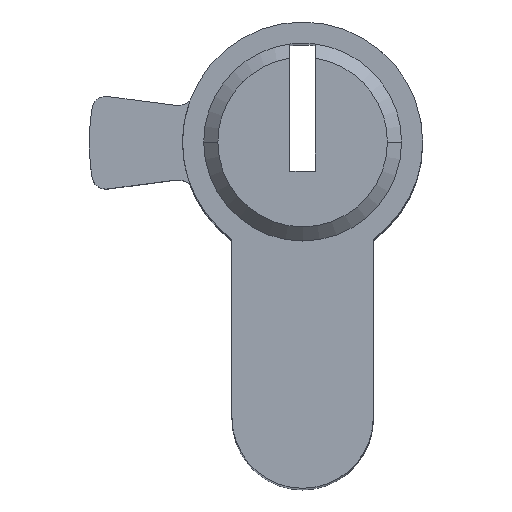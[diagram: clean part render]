
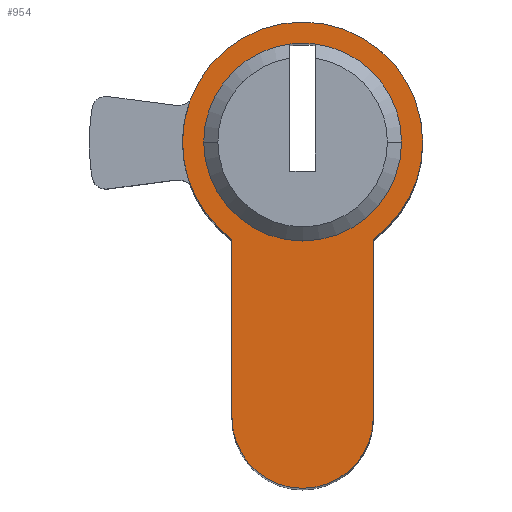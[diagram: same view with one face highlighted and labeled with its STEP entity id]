
A CAD part, top view. The second image highlights one B-rep face of the part: STEP entity #954.
In plain terms, the highlighted planar face has unit normal (0, 0, 1).
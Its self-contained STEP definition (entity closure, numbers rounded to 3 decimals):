
#4 = VERTEX_POINT ( 'NONE', #873 ) ;
#10 = AXIS2_PLACEMENT_3D ( 'NONE', #565, #1256, #710 ) ;
#30 = DIRECTION ( 'NONE',  ( 0., 0., 1. ) ) ;
#42 = FACE_OUTER_BOUND ( 'NONE', #805, .T. ) ;
#83 = VERTEX_POINT ( 'NONE', #1197 ) ;
#104 = CIRCLE ( 'NONE', #1184, 7. ) ;
#127 = AXIS2_PLACEMENT_3D ( 'NONE', #158, #1406, #997 ) ;
#158 = CARTESIAN_POINT ( 'NONE',  ( 0., -19.5, 30. ) ) ;
#200 = CARTESIAN_POINT ( 'NONE',  ( -0.9, 6.942, 30. ) ) ;
#219 = CARTESIAN_POINT ( 'NONE',  ( 0., 0., 30. ) ) ;
#228 = CARTESIAN_POINT ( 'NONE',  ( -8.5, 0., 30. ) ) ;
#234 = EDGE_CURVE ( 'NONE', #1361, #606, #1520, .T. ) ;
#268 = EDGE_CURVE ( 'NONE', #1162, #4, #1253, .T. ) ;
#296 = CIRCLE ( 'NONE', #1179, 8.5 ) ;
#317 = EDGE_CURVE ( 'NONE', #1241, #1488, #1731, .T. ) ;
#324 = DIRECTION ( 'NONE',  ( 1., 0., 0. ) ) ;
#341 = CARTESIAN_POINT ( 'NONE',  ( 0., 0., 30. ) ) ;
#347 = EDGE_CURVE ( 'NONE', #1251, #83, #1376, .T. ) ;
#379 = CARTESIAN_POINT ( 'NONE',  ( 0., 0., 30. ) ) ;
#439 = VECTOR ( 'NONE', #680, 1000. ) ;
#449 = EDGE_CURVE ( 'NONE', #1488, #1361, #296, .T. ) ;
#518 = EDGE_LOOP ( 'NONE', ( #1191, #1095, #625, #814 ) ) ;
#558 = EDGE_CURVE ( 'NONE', #697, #1251, #1150, .T. ) ;
#565 = CARTESIAN_POINT ( 'NONE',  ( 0., 0., 30. ) ) ;
#589 = CARTESIAN_POINT ( 'NONE',  ( 8.5, 0., 30. ) ) ;
#606 = VERTEX_POINT ( 'NONE', #228 ) ;
#625 = ORIENTED_EDGE ( 'NONE', *, *, #558, .F. ) ;
#668 = DIRECTION ( 'NONE',  ( 1., 0., 0. ) ) ;
#674 = VECTOR ( 'NONE', #1052, 1000. ) ;
#680 = DIRECTION ( 'NONE',  ( 0., -1., 0. ) ) ;
#697 = VERTEX_POINT ( 'NONE', #877 ) ;
#710 = DIRECTION ( 'NONE',  ( 1., 0., 0. ) ) ;
#751 = AXIS2_PLACEMENT_3D ( 'NONE', #1374, #30, #1667 ) ;
#804 = DIRECTION ( 'NONE',  ( 1., 0., 0. ) ) ;
#805 = EDGE_LOOP ( 'NONE', ( #929, #1185, #1660, #1757, #1754, #1624 ) ) ;
#814 = ORIENTED_EDGE ( 'NONE', *, *, #1193, .F. ) ;
#822 = DIRECTION ( 'NONE',  ( 0., 0., 1. ) ) ;
#830 = CARTESIAN_POINT ( 'NONE',  ( 0., 0., 30. ) ) ;
#873 = CARTESIAN_POINT ( 'NONE',  ( -5., -19.5, 30. ) ) ;
#877 = CARTESIAN_POINT ( 'NONE',  ( -7., 0., 30. ) ) ;
#883 = DIRECTION ( 'NONE',  ( 0., 0., 1. ) ) ;
#903 = EDGE_CURVE ( 'NONE', #4, #1241, #1407, .T. ) ;
#915 = DIRECTION ( 'NONE',  ( 1., 0., 0. ) ) ;
#929 = ORIENTED_EDGE ( 'NONE', *, *, #449, .T. ) ;
#937 = DIRECTION ( 'NONE',  ( 0., 0., 1. ) ) ;
#954 = ADVANCED_FACE ( 'NONE', ( #1642, #42 ), #1236, .T. ) ;
#989 = DIRECTION ( 'NONE',  ( 1., 0., 0. ) ) ;
#997 = DIRECTION ( 'NONE',  ( 1., 0., 0. ) ) ;
#1052 = DIRECTION ( 'NONE',  ( 0., 1., 0. ) ) ;
#1056 = CARTESIAN_POINT ( 'NONE',  ( 7., 0., 30. ) ) ;
#1095 = ORIENTED_EDGE ( 'NONE', *, *, #347, .F. ) ;
#1116 = EDGE_CURVE ( 'NONE', #606, #1162, #1159, .T. ) ;
#1131 = AXIS2_PLACEMENT_3D ( 'NONE', #341, #883, #915 ) ;
#1150 = CIRCLE ( 'NONE', #1404, 7. ) ;
#1159 = CIRCLE ( 'NONE', #1131, 8.5 ) ;
#1162 = VERTEX_POINT ( 'NONE', #1458 ) ;
#1163 = DIRECTION ( 'NONE',  ( 1., 0., 0. ) ) ;
#1178 = CARTESIAN_POINT ( 'NONE',  ( 5., -19.5, 30. ) ) ;
#1179 = AXIS2_PLACEMENT_3D ( 'NONE', #1362, #937, #668 ) ;
#1184 = AXIS2_PLACEMENT_3D ( 'NONE', #830, #822, #989 ) ;
#1185 = ORIENTED_EDGE ( 'NONE', *, *, #234, .T. ) ;
#1190 = DIRECTION ( 'NONE',  ( 0., 0., 1. ) ) ;
#1191 = ORIENTED_EDGE ( 'NONE', *, *, #1380, .F. ) ;
#1193 = EDGE_CURVE ( 'NONE', #1502, #697, #1702, .T. ) ;
#1197 = CARTESIAN_POINT ( 'NONE',  ( 0.9, 6.942, 30. ) ) ;
#1236 = PLANE ( 'NONE',  #10 ) ;
#1239 = CARTESIAN_POINT ( 'NONE',  ( 0., 0., 30. ) ) ;
#1241 = VERTEX_POINT ( 'NONE', #1314 ) ;
#1251 = VERTEX_POINT ( 'NONE', #1056 ) ;
#1253 = LINE ( 'NONE', #1420, #439 ) ;
#1256 = DIRECTION ( 'NONE',  ( 0., 0., 1. ) ) ;
#1264 = AXIS2_PLACEMENT_3D ( 'NONE', #219, #1721, #1163 ) ;
#1299 = AXIS2_PLACEMENT_3D ( 'NONE', #379, #1190, #804 ) ;
#1314 = CARTESIAN_POINT ( 'NONE',  ( 5., -19.5, 30. ) ) ;
#1361 = VERTEX_POINT ( 'NONE', #589 ) ;
#1362 = CARTESIAN_POINT ( 'NONE',  ( 0., 0., 30. ) ) ;
#1374 = CARTESIAN_POINT ( 'NONE',  ( 0., 0., 30. ) ) ;
#1376 = CIRCLE ( 'NONE', #1264, 7. ) ;
#1380 = EDGE_CURVE ( 'NONE', #83, #1502, #104, .T. ) ;
#1404 = AXIS2_PLACEMENT_3D ( 'NONE', #1239, #1409, #324 ) ;
#1406 = DIRECTION ( 'NONE',  ( 0., 0., 1. ) ) ;
#1407 = CIRCLE ( 'NONE', #127, 5. ) ;
#1409 = DIRECTION ( 'NONE',  ( 0., 0., 1. ) ) ;
#1420 = CARTESIAN_POINT ( 'NONE',  ( -5., -6.874, 30. ) ) ;
#1458 = CARTESIAN_POINT ( 'NONE',  ( -5., -6.874, 30. ) ) ;
#1488 = VERTEX_POINT ( 'NONE', #1690 ) ;
#1502 = VERTEX_POINT ( 'NONE', #200 ) ;
#1520 = CIRCLE ( 'NONE', #751, 8.5 ) ;
#1624 = ORIENTED_EDGE ( 'NONE', *, *, #317, .T. ) ;
#1642 = FACE_BOUND ( 'NONE', #518, .T. ) ;
#1660 = ORIENTED_EDGE ( 'NONE', *, *, #1116, .T. ) ;
#1667 = DIRECTION ( 'NONE',  ( 1., 0., 0. ) ) ;
#1690 = CARTESIAN_POINT ( 'NONE',  ( 5., -6.874, 30. ) ) ;
#1702 = CIRCLE ( 'NONE', #1299, 7. ) ;
#1721 = DIRECTION ( 'NONE',  ( 0., 0., 1. ) ) ;
#1731 = LINE ( 'NONE', #1178, #674 ) ;
#1754 = ORIENTED_EDGE ( 'NONE', *, *, #903, .T. ) ;
#1757 = ORIENTED_EDGE ( 'NONE', *, *, #268, .T. ) ;
